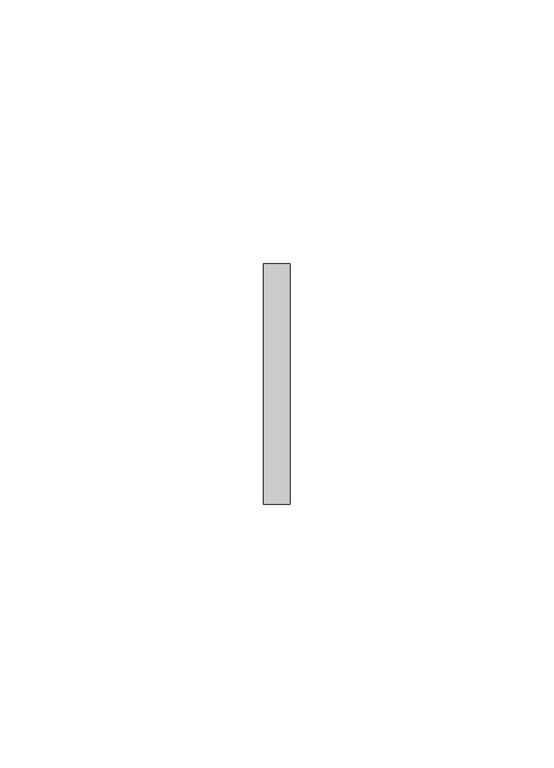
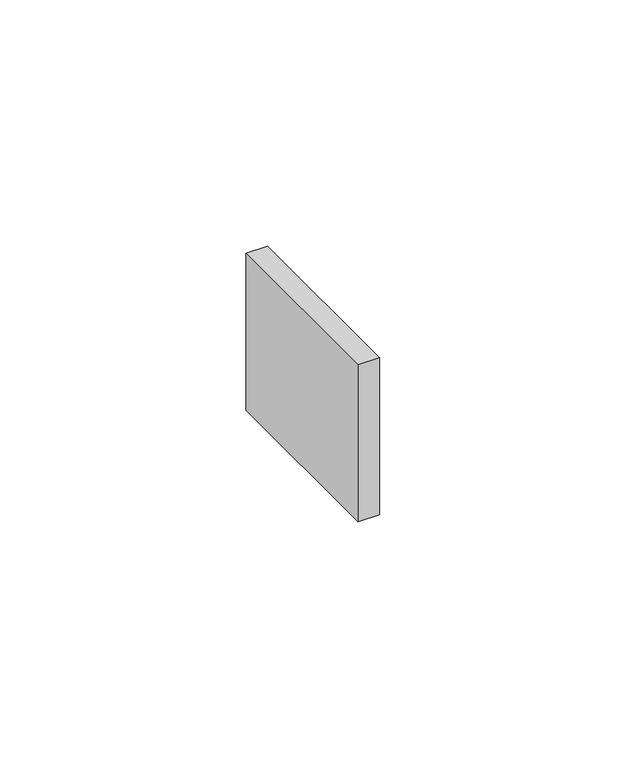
"""IFC4 building model written with IfcOpenShell, lengths in millimetres: proxy geometry, Odbojniki - OPW10 : Odbojniki - OPW10."""

from ifc_helpers import new_model, si_unit, frame, origin, place, context, project, spatial, polyline, outline, extrude, source, transform, mapped, element, save


def generic_models_6ab14d9f(model_context):
    return source(origin(), model_context, "Body", "SweptSolid", [
        extrude(outline(polyline([(2.5, -22.3707862), (-2.5, -22.3707862), (-2.5, 23.1092138), (2.5, 23.1092138), (2.5, -22.3707862)])), frame((0.0, 0.0, -3.4220113), z_axis=(0.0, 0.0, 1.0), x_axis=(1.0, 0.0, 0.0)), (0.0, 0.0, 1.0), 38.9029188),
    ])


if __name__ == "__main__":
    model = new_model("IFC4")
    model_context = context("Model", 3, world=origin())
    ifc_project = project(units=[si_unit("LENGTHUNIT", "METRE", prefix="MILLI")], contexts=[model_context])
    site = spatial("IfcSite", under=ifc_project)
    building = spatial("IfcBuilding", under=site)
    placement = place(None, origin())
    generic_models_shape = generic_models_6ab14d9f(model_context)
    element("IfcBuildingElementProxy", 1, Name="Odbojniki - OPW10 : Odbojniki - OPW10", ObjectType="Odbojniki - OPW10 : Odbojniki - OPW10", at=placement, inside=building, context=model_context, shape_type="MappedRepresentation", body=[
        mapped(generic_models_shape, transform((0.0, 0.0, 0.0), x_axis=(1.0, 0.0, 0.0), y_axis=(0.0, 1.0, 0.0), z_axis=(0.0, 0.0, 1.0))),
    ])
    save(model, "model.ifc")
